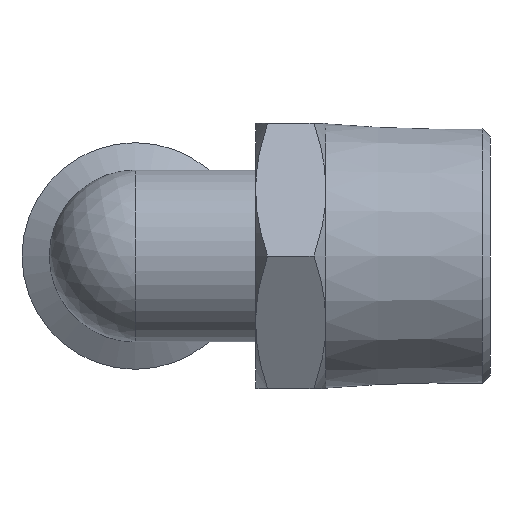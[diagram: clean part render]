
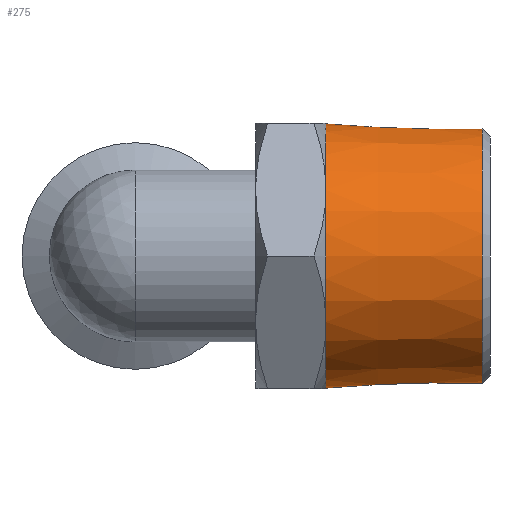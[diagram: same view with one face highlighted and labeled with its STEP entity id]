
A CAD part, left-side view. The second image highlights one B-rep face of the part: STEP entity #275.
In plain terms, the highlighted conical face has half-angle 1.78 degrees and reference radius 8.294 mm.
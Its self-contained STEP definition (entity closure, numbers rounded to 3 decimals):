
#232=CARTESIAN_POINT('',(-8.147,-22.2,0.));
#233=VERTEX_POINT('',#232);
#234=CARTESIAN_POINT('',(0.0,-22.2,0.));
#235=DIRECTION('',(0.0,-1.0,0.0));
#236=DIRECTION('',(1.0,0.0,0.0));
#237=AXIS2_PLACEMENT_3D('',#234,#235,#236);
#238=CIRCLE('',#237,8.147);
#239=EDGE_CURVE('',#233,#233,#238,.T.);
#256=CARTESIAN_POINT('',(0.0,-17.45,0.0));
#257=DIRECTION('',(0.0,1.0,0.0));
#258=DIRECTION('',(-1.0,0.0,0.0));
#259=AXIS2_PLACEMENT_3D('',#256,#257,#258);
#260=CONICAL_SURFACE('',#259,8.294,1.78);
#261=CARTESIAN_POINT('',(-8.457,-12.2,0.0));
#262=VERTEX_POINT('',#261);
#263=CARTESIAN_POINT('',(0.0,-12.2,0.0));
#264=DIRECTION('',(0.0,1.0,0.0));
#265=DIRECTION('',(-1.0,0.0,0.0));
#266=AXIS2_PLACEMENT_3D('',#263,#264,#265);
#267=CIRCLE('',#266,8.457);
#268=EDGE_CURVE('',#262,#262,#267,.T.);
#269=ORIENTED_EDGE('',*,*,#268,.F.);
#270=EDGE_LOOP('',(#269));
#271=FACE_OUTER_BOUND('',#270,.T.);
#272=ORIENTED_EDGE('',*,*,#239,.F.);
#273=EDGE_LOOP('',(#272));
#274=FACE_BOUND('',#273,.T.);
#275=ADVANCED_FACE('',(#271,#274),#260,.T.);
